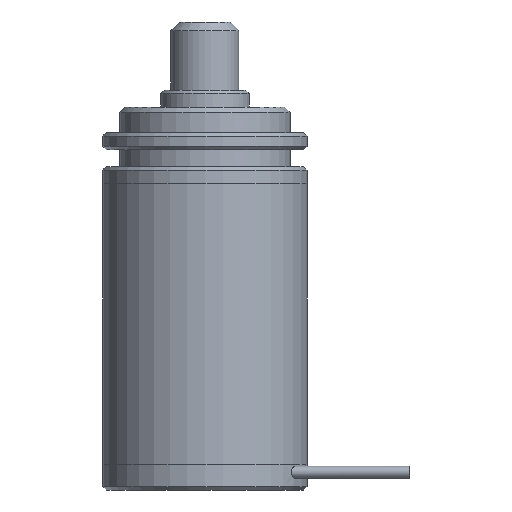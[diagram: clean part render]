
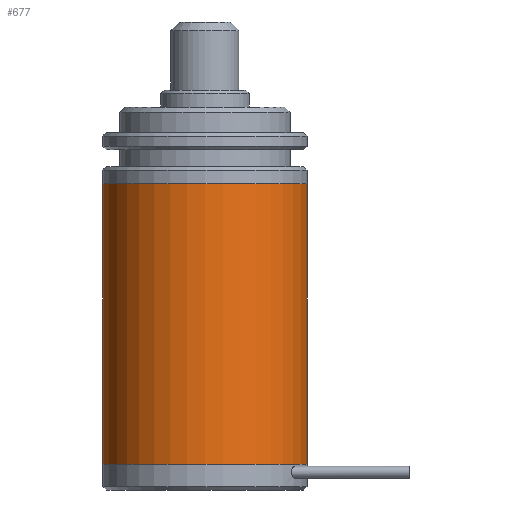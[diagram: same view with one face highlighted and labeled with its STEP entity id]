
A CAD part, left-side view. The second image highlights one B-rep face of the part: STEP entity #677.
In plain terms, the highlighted cylindrical face has radius 6 mm (diameter 12 mm), a partial arc.
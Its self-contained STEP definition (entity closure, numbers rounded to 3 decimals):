
#46 = EDGE_CURVE ( 'NONE', #1069, #1805, #2387, .T. ) ;
#99 = EDGE_CURVE ( 'NONE', #1069, #1249, #2868, .T. ) ;
#262 = AXIS2_PLACEMENT_3D ( 'NONE', #2606, #1146, #2828 ) ;
#269 = CARTESIAN_POINT ( 'NONE',  ( 0., 6., -26. ) ) ;
#332 = CARTESIAN_POINT ( 'NONE',  ( 0., 6., -26. ) ) ;
#426 = CARTESIAN_POINT ( 'NONE',  ( 0., 0., -26. ) ) ;
#438 = DIRECTION ( 'NONE',  ( 0., -1., 0. ) ) ;
#498 = FACE_OUTER_BOUND ( 'NONE', #994, .T. ) ;
#661 = AXIS2_PLACEMENT_3D ( 'NONE', #2321, #2094, #2081 ) ;
#677 = ADVANCED_FACE ( 'NONE', ( #498 ), #2845, .T. ) ;
#758 = CARTESIAN_POINT ( 'NONE',  ( 0., -6., -9.5 ) ) ;
#774 = DIRECTION ( 'NONE',  ( 0., 0., 1. ) ) ;
#919 = CIRCLE ( 'NONE', #262, 6. ) ;
#994 = EDGE_LOOP ( 'NONE', ( #2259, #2167, #2136, #1818 ) ) ;
#1030 = AXIS2_PLACEMENT_3D ( 'NONE', #426, #1909, #438 ) ;
#1069 = VERTEX_POINT ( 'NONE', #2043 ) ;
#1146 = DIRECTION ( 'NONE',  ( 0., 0., -1. ) ) ;
#1249 = VERTEX_POINT ( 'NONE', #332 ) ;
#1366 = LINE ( 'NONE', #269, #2429 ) ;
#1374 = VERTEX_POINT ( 'NONE', #2087 ) ;
#1574 = CARTESIAN_POINT ( 'NONE',  ( 0., -6., -26. ) ) ;
#1805 = VERTEX_POINT ( 'NONE', #758 ) ;
#1818 = ORIENTED_EDGE ( 'NONE', *, *, #2263, .T. ) ;
#1849 = DIRECTION ( 'NONE',  ( 0., 0., 1. ) ) ;
#1909 = DIRECTION ( 'NONE',  ( 0., 0., 1. ) ) ;
#2043 = CARTESIAN_POINT ( 'NONE',  ( 0., -6., -26. ) ) ;
#2081 = DIRECTION ( 'NONE',  ( 0., 1., 0. ) ) ;
#2087 = CARTESIAN_POINT ( 'NONE',  ( 0., 6., -9.5 ) ) ;
#2094 = DIRECTION ( 'NONE',  ( 0., 0., -1. ) ) ;
#2136 = ORIENTED_EDGE ( 'NONE', *, *, #46, .T. ) ;
#2167 = ORIENTED_EDGE ( 'NONE', *, *, #99, .F. ) ;
#2259 = ORIENTED_EDGE ( 'NONE', *, *, #3026, .F. ) ;
#2263 = EDGE_CURVE ( 'NONE', #1805, #1374, #919, .T. ) ;
#2298 = VECTOR ( 'NONE', #1849, 1000. ) ;
#2321 = CARTESIAN_POINT ( 'NONE',  ( 0., 0., -26. ) ) ;
#2387 = LINE ( 'NONE', #1574, #2298 ) ;
#2429 = VECTOR ( 'NONE', #774, 1000. ) ;
#2606 = CARTESIAN_POINT ( 'NONE',  ( 0., 0., -9.5 ) ) ;
#2828 = DIRECTION ( 'NONE',  ( 0., 1., 0. ) ) ;
#2845 = CYLINDRICAL_SURFACE ( 'NONE', #1030, 6. ) ;
#2868 = CIRCLE ( 'NONE', #661, 6. ) ;
#3026 = EDGE_CURVE ( 'NONE', #1249, #1374, #1366, .T. ) ;
